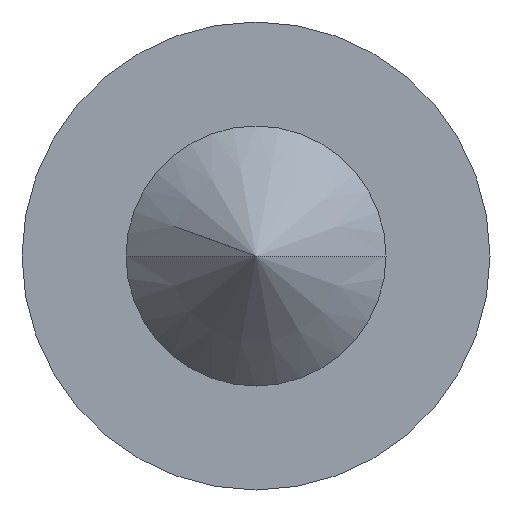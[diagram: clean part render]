
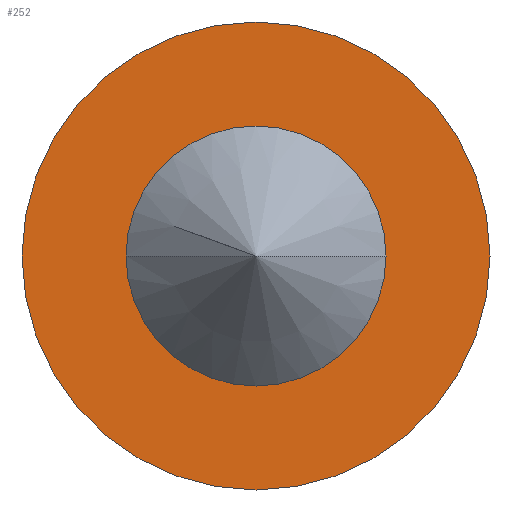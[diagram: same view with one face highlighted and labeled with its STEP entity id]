
A CAD part, front view. The second image highlights one B-rep face of the part: STEP entity #252.
In plain terms, the highlighted planar face has unit normal (0, -1, 0).
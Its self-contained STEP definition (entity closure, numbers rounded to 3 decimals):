
#11=CARTESIAN_POINT('',(0.,-0.35,0.));
#12=DIRECTION('',(0.,1.,0.));
#13=DIRECTION('',(1.,0.,0.));
#14=AXIS2_PLACEMENT_3D('',#11,#12,#13);
#20=CARTESIAN_POINT('',(0.,-0.35,0.));
#21=DIRECTION('',(0.,-1.,0.));
#22=DIRECTION('',(1.,0.,0.));
#23=AXIS2_PLACEMENT_3D('',#20,#21,#22);
#29=CARTESIAN_POINT('',(0.,-0.35,0.));
#30=DIRECTION('',(0.,1.,0.));
#31=DIRECTION('',(1.,0.,0.));
#32=AXIS2_PLACEMENT_3D('',#29,#30,#31);
#34=CARTESIAN_POINT('',(0.,-0.35,0.));
#35=DIRECTION('',(0.,-1.,0.));
#36=DIRECTION('',(1.,0.,0.));
#37=AXIS2_PLACEMENT_3D('',#34,#35,#36);
#161=CARTESIAN_POINT('',(0.5,-0.35,0.));
#162=VERTEX_POINT('',#161);
#163=CARTESIAN_POINT('',(0.9,-0.35,0.));
#165=VERTEX_POINT('',#163);
#173=CARTESIAN_POINT('',(-0.5,-0.35,0.));
#174=VERTEX_POINT('',#173);
#175=CARTESIAN_POINT('',(-0.9,-0.35,0.));
#177=VERTEX_POINT('',#175);
#237=CARTESIAN_POINT('',(0.,-0.35,0.));
#238=DIRECTION('',(0.,1.,0.));
#239=DIRECTION('',(1.,0.,0.));
#240=AXIS2_PLACEMENT_3D('',#237,#238,#239);
#241=PLANE('',#240);
#242=ORIENTED_EDGE('',*,*,#230,.F.);
#243=ORIENTED_EDGE('',*,*,#219,.T.);
#244=EDGE_LOOP('',(#242,#243));
#245=FACE_OUTER_BOUND('',#244,.F.);
#247=ORIENTED_EDGE('',*,*,#246,.F.);
#249=ORIENTED_EDGE('',*,*,#248,.T.);
#250=EDGE_LOOP('',(#247,#249));
#251=FACE_BOUND('',#250,.F.);
#15=CIRCLE('',#14,0.9);
#24=CIRCLE('',#23,0.9);
#33=CIRCLE('',#32,0.5);
#38=CIRCLE('',#37,0.5);
#219=EDGE_CURVE('',#165,#177,#15,.T.);
#230=EDGE_CURVE('',#165,#177,#24,.T.);
#246=EDGE_CURVE('',#162,#174,#33,.T.);
#248=EDGE_CURVE('',#162,#174,#38,.T.);
#252=ADVANCED_FACE('',(#245,#251),#241,.F.);
